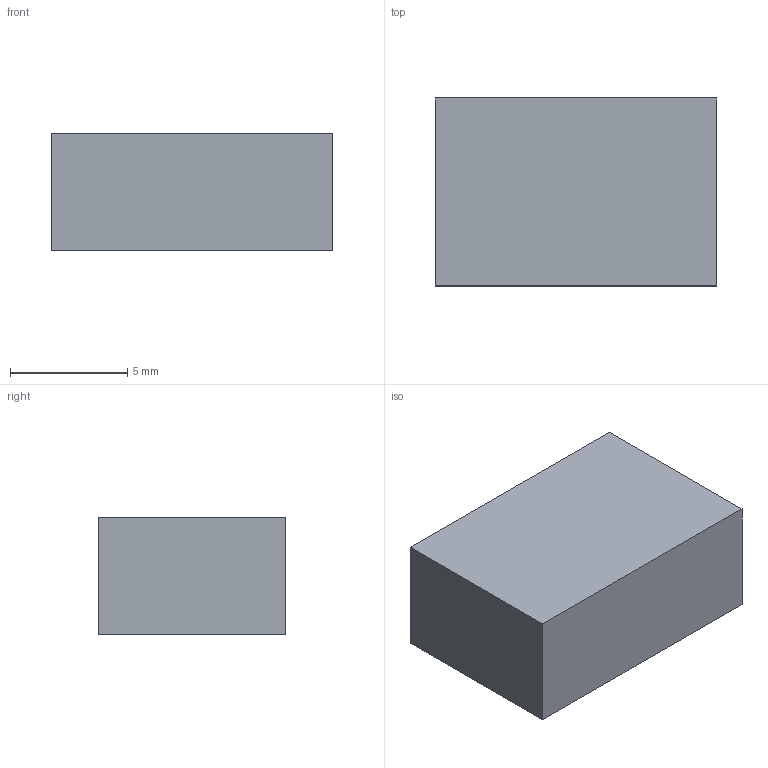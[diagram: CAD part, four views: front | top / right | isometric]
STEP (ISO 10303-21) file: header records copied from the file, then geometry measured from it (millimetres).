
FILE_DESCRIPTION(('Open CASCADE Model'),'2;1');
FILE_NAME('Open CASCADE Shape Model','2026-10-17T17:22:14',('Author'),( 'Open CASCADE'),'Open CASCADE STEP processor 7.9','Open CASCADE 7.9' ,'Unknown');
FILE_SCHEMA(('AUTOMOTIVE_DESIGN { 1 0 10303 214 1 1 1 1 }'));
Length unit declared in the file: millimetre
Products named in the file (1): Open CASCADE STEP translator 7.9 25
Bounding box: 12 x 8 x 5 mm (x, y, z)
Volume: 480 mm3; surface area: 392 mm2
Topology: 1 solids, 1 shells, 6 faces, 12 edges, 8 vertices
Faces by surface type: plane 6
Entity records: 322 total; most frequent: CARTESIAN_POINT 51, DIRECTION 50, LINE 36, VECTOR 36, ORIENTED_EDGE 24, PCURVE 24, DEFINITIONAL_REPRESENTATION 24, EDGE_CURVE 12
